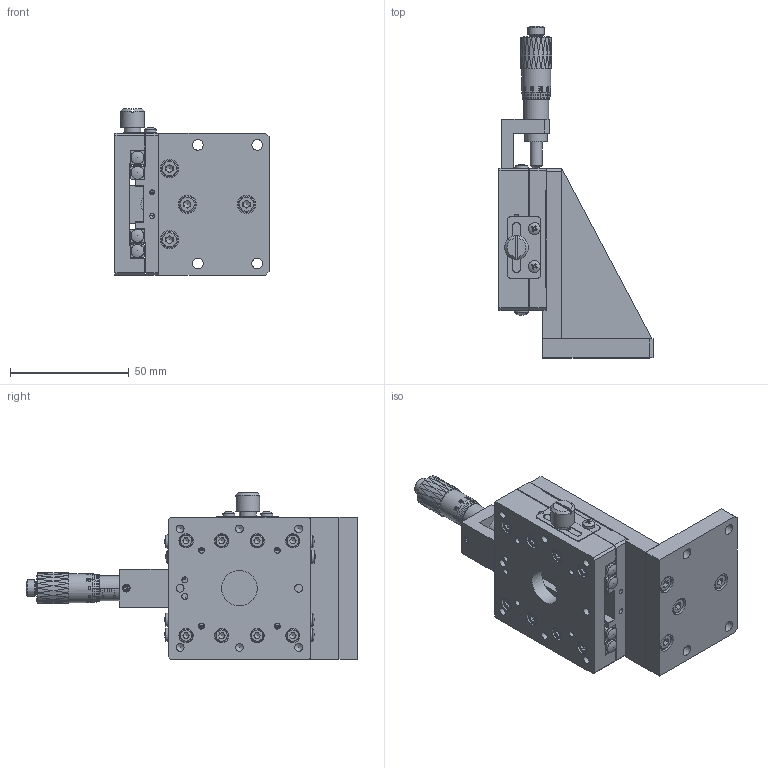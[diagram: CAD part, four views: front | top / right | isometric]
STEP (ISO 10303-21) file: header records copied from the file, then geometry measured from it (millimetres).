
FILE_DESCRIPTION (( 'STEP AP203' ), '1' );
FILE_NAME ('BVZ60.STEP', '2024-07-23T12:55:32', ( 'Windows User' ), ( 'P R C' ), 'SwSTEP 2.0', 'SolidWorks 2024', '' );
FILE_SCHEMA (( 'CONFIG_CONTROL_DESIGN' ));
Products named in the file (1): BVZ60
Bounding box: 65 x 140 x 70.3 mm (x, y, z)
Volume: 129615 mm3; surface area: 66576.5 mm2
Topology: 40 solids, 40 shells, 1940 faces, 4790 edges, 3070 vertices
Faces by surface type: plane 897, bspline 403, cylinder 361, cone 254, torus 22, sphere 3
Full cylindrical faces by diameter (mm): 2 x22, 2.05 x12, 2.5 x19, 2.55 x16, 2.9 x2, 2.95 x9, 3 x17, 3.1 x2, 3.2 x1, 3.3 x16, 3.4 x16, 4 x4, 4.4 x16, 4.5 x16, 5 x5, 5.5 x16, 6 x16, 7 x6, 7.7 x4, 8 x4, 8.5 x1, 9.5 x2, 10 x1, 10.5 x1, 12.2 x1, 15 x1
Entity records: 86195 total; most frequent: CARTESIAN_POINT 46176, ORIENTED_EDGE 8484, DIRECTION 6666, EDGE_CURVE 4242, VERTEX_POINT 2938, EDGE_LOOP 2720, AXIS2_PLACEMENT_3D 2472, FACE_OUTER_BOUND 2173
